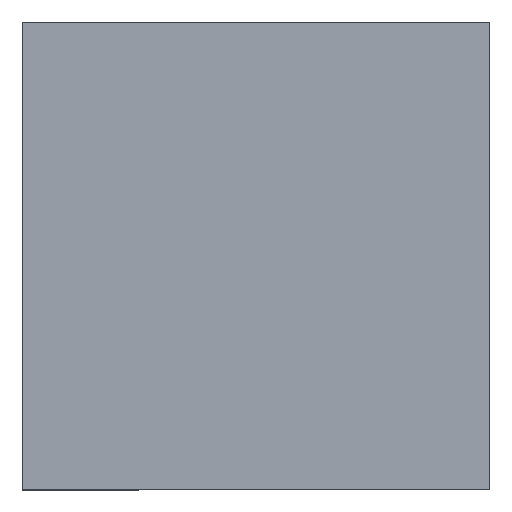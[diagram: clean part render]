
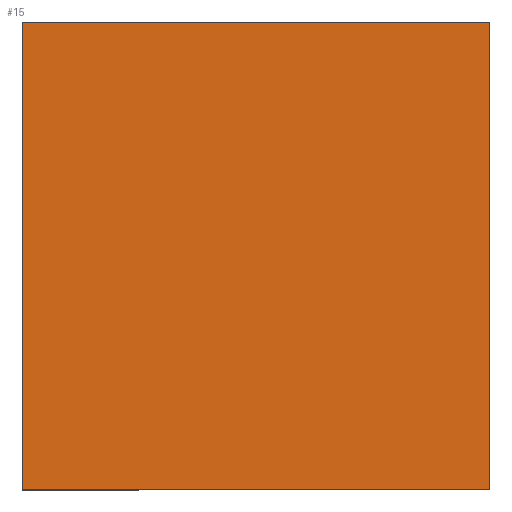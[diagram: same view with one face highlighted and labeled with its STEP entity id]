
A CAD part, top view. The second image highlights one B-rep face of the part: STEP entity #15.
In plain terms, the highlighted planar face has unit normal (0, 0, 1).
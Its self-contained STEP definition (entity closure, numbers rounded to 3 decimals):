
#15=ADVANCED_FACE('',(#21),#89,.T.);
#21=FACE_OUTER_BOUND('',#27,.T.);
#27=EDGE_LOOP('',(#33,#34,#35,#36));
#33=ORIENTED_EDGE('',*,*,#57,.T.);
#34=ORIENTED_EDGE('',*,*,#60,.T.);
#35=ORIENTED_EDGE('',*,*,#59,.T.);
#36=ORIENTED_EDGE('',*,*,#58,.T.);
#57=EDGE_CURVE('',#81,#84,#69,.T.);
#58=EDGE_CURVE('',#82,#81,#70,.T.);
#59=EDGE_CURVE('',#83,#82,#71,.T.);
#60=EDGE_CURVE('',#84,#83,#72,.T.);
#69=B_SPLINE_CURVE_WITH_KNOTS('',1,(#147,#148),.UNSPECIFIED.,.F.,.F.,(2,
2),(249.,497.),.UNSPECIFIED.);
#70=B_SPLINE_CURVE_WITH_KNOTS('',1,(#149,#150),.UNSPECIFIED.,.F.,.F.,(2,
2),(993.,1241.),.UNSPECIFIED.);
#71=B_SPLINE_CURVE_WITH_KNOTS('',1,(#151,#152),.UNSPECIFIED.,.F.,.F.,(2,
2),(745.,993.),.UNSPECIFIED.);
#72=B_SPLINE_CURVE_WITH_KNOTS('',1,(#153,#154),.UNSPECIFIED.,.F.,.F.,(2,
2),(497.,745.),.UNSPECIFIED.);
#81=VERTEX_POINT('',#139);
#82=VERTEX_POINT('',#140);
#83=VERTEX_POINT('',#141);
#84=VERTEX_POINT('',#142);
#89=PLANE('',#115);
#115=AXIS2_PLACEMENT_3D('',#133,#124,$);
#124=DIRECTION('',(0.,0.,1.));
#133=CARTESIAN_POINT('',(-2.48,-2.48,14.));
#139=CARTESIAN_POINT('',(248.,248.,14.));
#140=CARTESIAN_POINT('',(248.,0.,14.));
#141=CARTESIAN_POINT('',(0.,0.,14.));
#142=CARTESIAN_POINT('',(0.,248.,14.));
#147=CARTESIAN_POINT('',(248.,248.,14.));
#148=CARTESIAN_POINT('',(0.,248.,14.));
#149=CARTESIAN_POINT('',(248.,0.,14.));
#150=CARTESIAN_POINT('',(248.,248.,14.));
#151=CARTESIAN_POINT('',(0.,0.,14.));
#152=CARTESIAN_POINT('',(248.,0.,14.));
#153=CARTESIAN_POINT('',(0.,248.,14.));
#154=CARTESIAN_POINT('',(0.,0.,14.));
